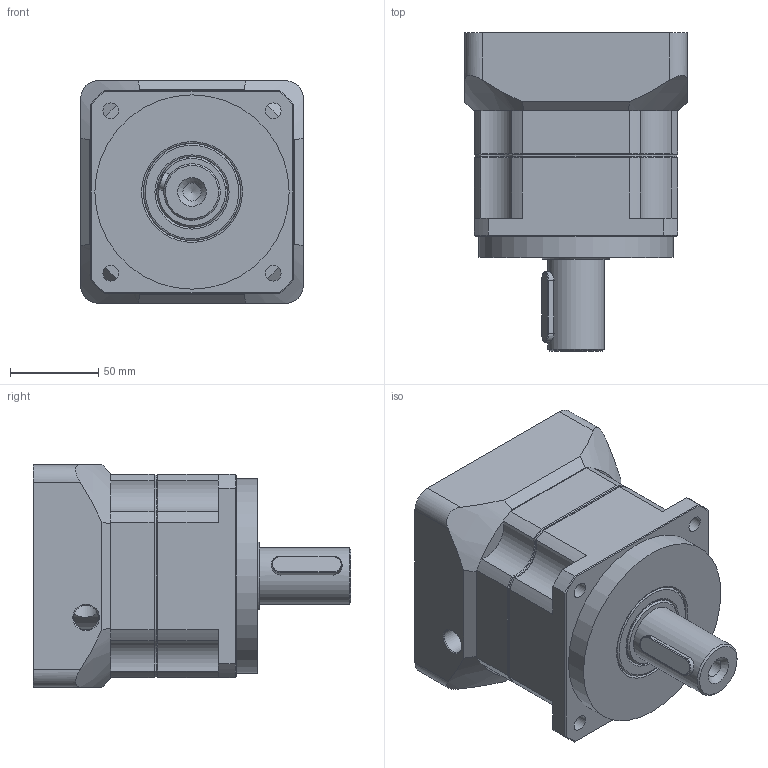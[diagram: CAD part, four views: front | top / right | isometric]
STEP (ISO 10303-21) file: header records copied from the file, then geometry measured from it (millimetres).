
FILE_DESCRIPTION (( 'STEP AP203' ), '1' );
FILE_NAME ('JHP115.STEP', '2015-02-26T03:50:57', ( 'wang' ), ( '' ), 'SwSTEP 2.0', 'SolidWorks 2013', '' );
FILE_SCHEMA (( 'CONFIG_CONTROL_DESIGN' ));
Length unit declared in the file: millimetre
Products named in the file (13): Assem1; JHP115; 6003; R-ATTTTT; C; R-AB; R-AF; E; Key(10_8_30L); BS 6267; Part2; 40_50_8; Part6
Assembly tree (12 placements, depth 3):
  JHP115
    R-AF
    40_50_8
    Assem1
      R-ATTTTT
      Key(10_8_30L)
    R-AB
    Part2
    6003
    E
    Part6
    C
    BS 6267
Bounding box: 126 x 180 x 126 mm (x, y, z)
Volume: 1238282.2 mm3; surface area: 263235.2 mm2
Topology: 30 solids, 30 shells, 1106 faces, 2981 edges, 1856 vertices
Faces by surface type: plane 408, bspline 241, cylinder 233, cone 119, sphere 91, torus 14
Full cylindrical faces by diameter (mm): 5 x1, 8 x17, 9 x4, 10 x2, 10.2 x2, 13 x4, 13.705 x1, 14 x1, 19 x1, 24 x1, 25 x1, 30 x1, 32 x1, 34.9 x1, 35 x1, 38 x1, 38.2 x1, 40 x3, 43 x1, 45 x1, 48.4 x2, 52 x1, 52.6 x1, 55 x2, 55.4 x1, 57 x1, 62 x1, 68 x1, 70 x1, 75 x2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
Entity records: 45703 total; most frequent: CARTESIAN_POINT 19714, ORIENTED_EDGE 5338, DIRECTION 4585, EDGE_CURVE 2669, AXIS2_PLACEMENT_3D 1871, VERTEX_POINT 1703, EDGE_LOOP 1374, FACE_OUTER_BOUND 1181
